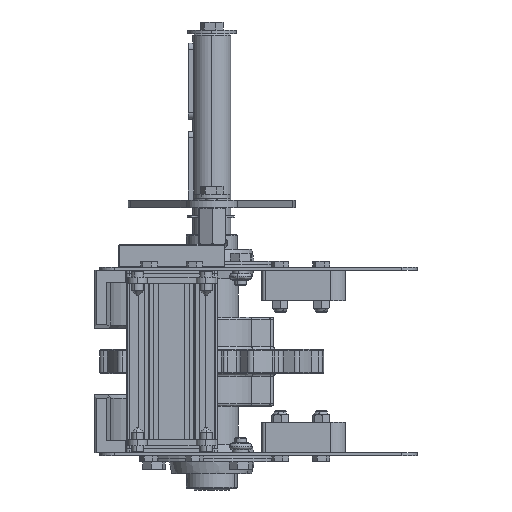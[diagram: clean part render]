
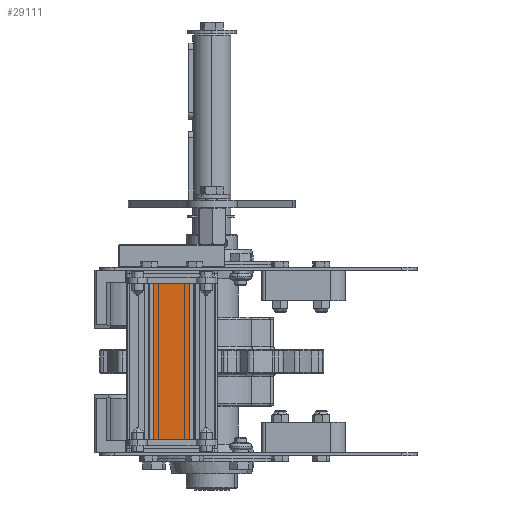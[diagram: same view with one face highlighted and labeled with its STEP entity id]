
A CAD part, left-side view. The second image highlights one B-rep face of the part: STEP entity #29111.
In plain terms, the highlighted planar face has unit normal (-1, 0, 0).
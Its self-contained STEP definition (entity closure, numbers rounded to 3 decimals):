
#2978 = LINE ( 'NONE', #24069, #35937 ) ;
#3637 = VECTOR ( 'NONE', #28860, 1000. ) ;
#4112 = PLANE ( 'NONE',  #15133 ) ;
#7376 = DIRECTION ( 'NONE',  ( 0., 0., -1. ) ) ;
#9670 = ORIENTED_EDGE ( 'NONE', *, *, #30126, .F. ) ;
#9753 = CARTESIAN_POINT ( 'NONE',  ( -15., 26.85, 103. ) ) ;
#10637 = VERTEX_POINT ( 'NONE', #30236 ) ;
#12223 = EDGE_LOOP ( 'NONE', ( #30830, #9670, #41211, #22650 ) ) ;
#13207 = LINE ( 'NONE', #29386, #21661 ) ;
#13488 = DIRECTION ( 'NONE',  ( 0., 0., -1. ) ) ;
#13956 = CARTESIAN_POINT ( 'NONE',  ( -15., 3.15, 0. ) ) ;
#14607 = DIRECTION ( 'NONE',  ( 0., 0., -1. ) ) ;
#15133 = AXIS2_PLACEMENT_3D ( 'NONE', #23253, #26477, #7376 ) ;
#16641 = VERTEX_POINT ( 'NONE', #20228 ) ;
#17029 = VERTEX_POINT ( 'NONE', #13956 ) ;
#19359 = EDGE_CURVE ( 'NONE', #10637, #32071, #13207, .T. ) ;
#20228 = CARTESIAN_POINT ( 'NONE',  ( -15., 3.15, 103. ) ) ;
#21544 = FACE_OUTER_BOUND ( 'NONE', #12223, .T. ) ;
#21661 = VECTOR ( 'NONE', #13488, 1000. ) ;
#21874 = EDGE_CURVE ( 'NONE', #10637, #16641, #28139, .T. ) ;
#22650 = ORIENTED_EDGE ( 'NONE', *, *, #19359, .T. ) ;
#23253 = CARTESIAN_POINT ( 'NONE',  ( -15., 26.85, 103. ) ) ;
#23743 = EDGE_CURVE ( 'NONE', #32071, #17029, #34018, .T. ) ;
#24069 = CARTESIAN_POINT ( 'NONE',  ( -15., 3.15, 103. ) ) ;
#25542 = VECTOR ( 'NONE', #39274, 1000. ) ;
#26005 = CARTESIAN_POINT ( 'NONE',  ( -15., 26.85, 0. ) ) ;
#26477 = DIRECTION ( 'NONE',  ( 1., 0., 0. ) ) ;
#28139 = LINE ( 'NONE', #9753, #3637 ) ;
#28860 = DIRECTION ( 'NONE',  ( 0., -1., 0. ) ) ;
#29111 = ADVANCED_FACE ( 'NONE', ( #21544 ), #4112, .F. ) ;
#29386 = CARTESIAN_POINT ( 'NONE',  ( -15., 26.85, 103. ) ) ;
#30126 = EDGE_CURVE ( 'NONE', #16641, #17029, #2978, .T. ) ;
#30236 = CARTESIAN_POINT ( 'NONE',  ( -15., 26.85, 103. ) ) ;
#30830 = ORIENTED_EDGE ( 'NONE', *, *, #23743, .T. ) ;
#32071 = VERTEX_POINT ( 'NONE', #26005 ) ;
#34018 = LINE ( 'NONE', #35931, #25542 ) ;
#35931 = CARTESIAN_POINT ( 'NONE',  ( -15., 26.85, 0. ) ) ;
#35937 = VECTOR ( 'NONE', #14607, 1000. ) ;
#39274 = DIRECTION ( 'NONE',  ( 0., -1., 0. ) ) ;
#41211 = ORIENTED_EDGE ( 'NONE', *, *, #21874, .F. ) ;
